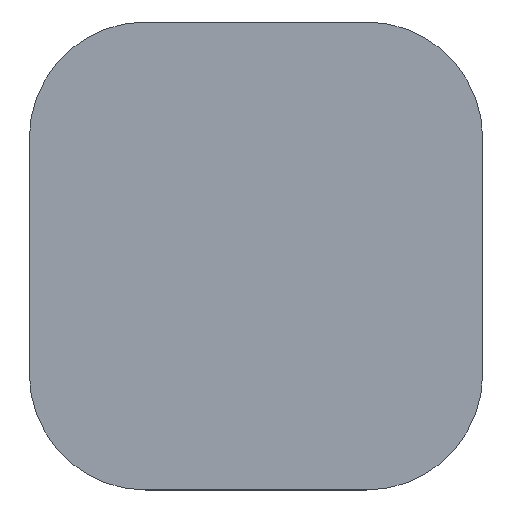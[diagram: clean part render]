
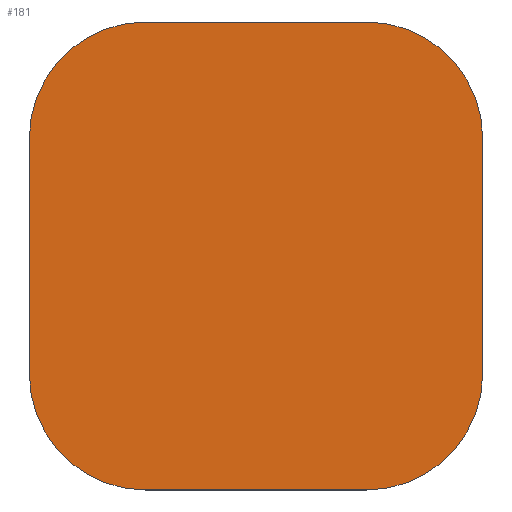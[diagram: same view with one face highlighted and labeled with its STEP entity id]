
A CAD part, top view. The second image highlights one B-rep face of the part: STEP entity #181.
In plain terms, the highlighted planar face has unit normal (0, 0, 1).
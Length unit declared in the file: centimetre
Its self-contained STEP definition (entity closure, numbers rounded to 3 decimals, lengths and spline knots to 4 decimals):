
#16=CIRCLE('',#200,1.575);
#18=CIRCLE('',#204,1.575);
#20=CIRCLE('',#208,1.575);
#22=CIRCLE('',#212,1.575);
#35=FACE_OUTER_BOUND('',#45,.T.);
#45=EDGE_LOOP('',(#151,#152,#153,#154,#155,#156,#157,#158));
#49=LINE('',#277,#65);
#53=LINE('',#289,#69);
#57=LINE('',#301,#73);
#61=LINE('',#313,#77);
#65=VECTOR('',#221,1.);
#69=VECTOR('',#233,1.);
#73=VECTOR('',#245,1.);
#77=VECTOR('',#257,1.);
#81=VERTEX_POINT('',#274);
#82=VERTEX_POINT('',#276);
#84=VERTEX_POINT('',#282);
#86=VERTEX_POINT('',#288);
#88=VERTEX_POINT('',#294);
#90=VERTEX_POINT('',#300);
#92=VERTEX_POINT('',#306);
#94=VERTEX_POINT('',#312);
#97=EDGE_CURVE('',#82,#81,#49,.T.);
#100=EDGE_CURVE('',#84,#82,#16,.T.);
#103=EDGE_CURVE('',#86,#84,#53,.T.);
#106=EDGE_CURVE('',#88,#86,#18,.T.);
#109=EDGE_CURVE('',#90,#88,#57,.T.);
#112=EDGE_CURVE('',#92,#90,#20,.T.);
#115=EDGE_CURVE('',#94,#92,#61,.T.);
#118=EDGE_CURVE('',#81,#94,#22,.T.);
#151=ORIENTED_EDGE('',*,*,#118,.T.);
#152=ORIENTED_EDGE('',*,*,#115,.T.);
#153=ORIENTED_EDGE('',*,*,#112,.T.);
#154=ORIENTED_EDGE('',*,*,#109,.T.);
#155=ORIENTED_EDGE('',*,*,#106,.T.);
#156=ORIENTED_EDGE('',*,*,#103,.T.);
#157=ORIENTED_EDGE('',*,*,#100,.T.);
#158=ORIENTED_EDGE('',*,*,#97,.T.);
#171=PLANE('',#213);
#181=ADVANCED_FACE('',(#35),#171,.T.);
#200=AXIS2_PLACEMENT_3D('',#283,#227,#228);
#204=AXIS2_PLACEMENT_3D('',#295,#239,#240);
#208=AXIS2_PLACEMENT_3D('',#307,#251,#252);
#212=AXIS2_PLACEMENT_3D('',#317,#263,#264);
#213=AXIS2_PLACEMENT_3D('',#318,#265,#266);
#221=DIRECTION('',(0.,-1.,0.));
#227=DIRECTION('center_axis',(0.,0.,1.));
#228=DIRECTION('ref_axis',(0.,1.,0.));
#233=DIRECTION('',(-1.,0.,0.));
#239=DIRECTION('center_axis',(0.,0.,1.));
#240=DIRECTION('ref_axis',(1.,0.,0.));
#245=DIRECTION('',(0.,1.,0.));
#251=DIRECTION('center_axis',(0.,0.,1.));
#252=DIRECTION('ref_axis',(0.,-1.,0.));
#257=DIRECTION('',(1.,0.,0.));
#263=DIRECTION('center_axis',(0.,0.,1.));
#264=DIRECTION('ref_axis',(-1.,0.,0.));
#265=DIRECTION('center_axis',(0.,0.,1.));
#266=DIRECTION('ref_axis',(1.,0.,0.));
#274=CARTESIAN_POINT('',(-3.075,1.15,1.3));
#276=CARTESIAN_POINT('',(-3.075,4.35,1.3));
#277=CARTESIAN_POINT('',(-3.075,4.35,1.3));
#282=CARTESIAN_POINT('',(-1.5,5.925,1.3));
#283=CARTESIAN_POINT('Origin',(-1.5,4.35,1.3));
#288=CARTESIAN_POINT('',(1.5,5.925,1.3));
#289=CARTESIAN_POINT('',(1.5,5.925,1.3));
#294=CARTESIAN_POINT('',(3.075,4.35,1.3));
#295=CARTESIAN_POINT('Origin',(1.5,4.35,1.3));
#300=CARTESIAN_POINT('',(3.075,1.15,1.3));
#301=CARTESIAN_POINT('',(3.075,1.15,1.3));
#306=CARTESIAN_POINT('',(1.5,-0.425,1.3));
#307=CARTESIAN_POINT('Origin',(1.5,1.15,1.3));
#312=CARTESIAN_POINT('',(-1.5,-0.425,1.3));
#313=CARTESIAN_POINT('',(-1.5,-0.425,1.3));
#317=CARTESIAN_POINT('Origin',(-1.5,1.15,1.3));
#318=CARTESIAN_POINT('Origin',(0.,2.75,1.3));
